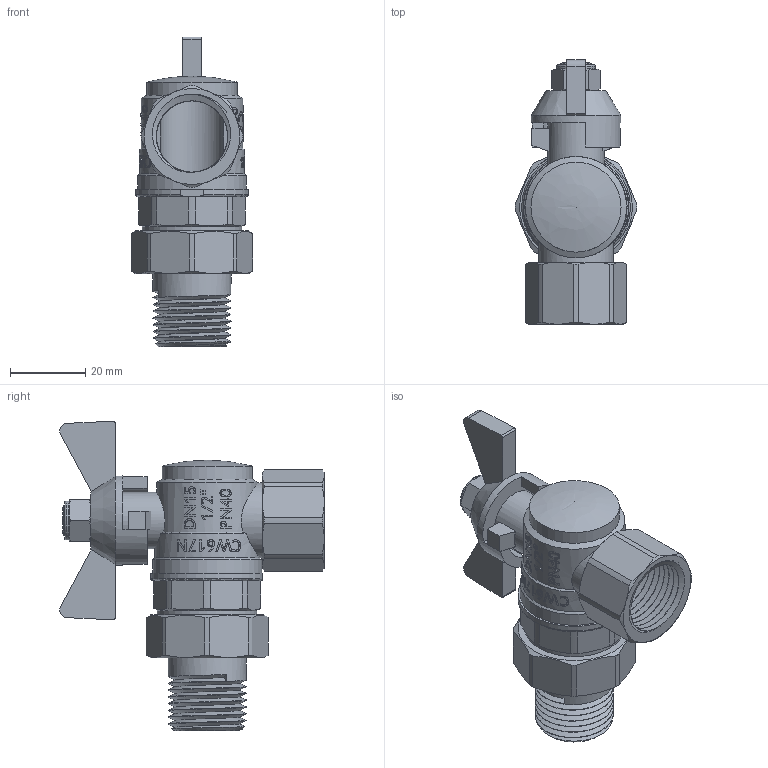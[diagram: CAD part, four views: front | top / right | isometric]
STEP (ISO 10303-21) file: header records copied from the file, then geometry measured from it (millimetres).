
FILE_DESCRIPTION(/* description */ (''),/* implementation_level */ '2;1');
FILE_NAME(/* name */ 'H:\Мишенин_3D\Исходные файлы 3D\VT.228.N.04.stp',/* time_stamp */ '2018-01-16T09:13:47+03:00',/* author */ ('MisheninAL'),/* organization */ (''),/* preprocessor_version */ 'ST-DEVELOPER v16.13',/* originating_system */ 'Autodesk Inventor 2018',/* authorisation */ '');
FILE_SCHEMA (('AUTOMOTIVE_DESIGN { 1 0 10303 214 3 1 1 }'));
Length unit declared in the file: millimetre
Products named in the file (1): VT.228_ВН_1%2
Bounding box: 32.5 x 70.5 x 82.53 mm (x, y, z)
Volume: 33379 mm3; surface area: 19334 mm2
Topology: 1 solids, 1 shells, 545 faces, 1446 edges, 950 vertices
Faces by surface type: plane 229, bspline 184, cylinder 101, cone 27, torus 4
Full cylindrical faces by diameter (mm): 8 x1, 10.392 x1, 15 x1, 17 x1, 19 x7, 20 x1, 20.8 x6, 23.95 x1, 24 x1, 26.5 x1, 27 x1, 29 x1
Entity records: 26338 total; most frequent: CARTESIAN_POINT 14407, ORIENTED_EDGE 2746, DIRECTION 1967, EDGE_CURVE 1373, VERTEX_POINT 913, AXIS2_PLACEMENT_3D 669, LINE 629, VECTOR 629
